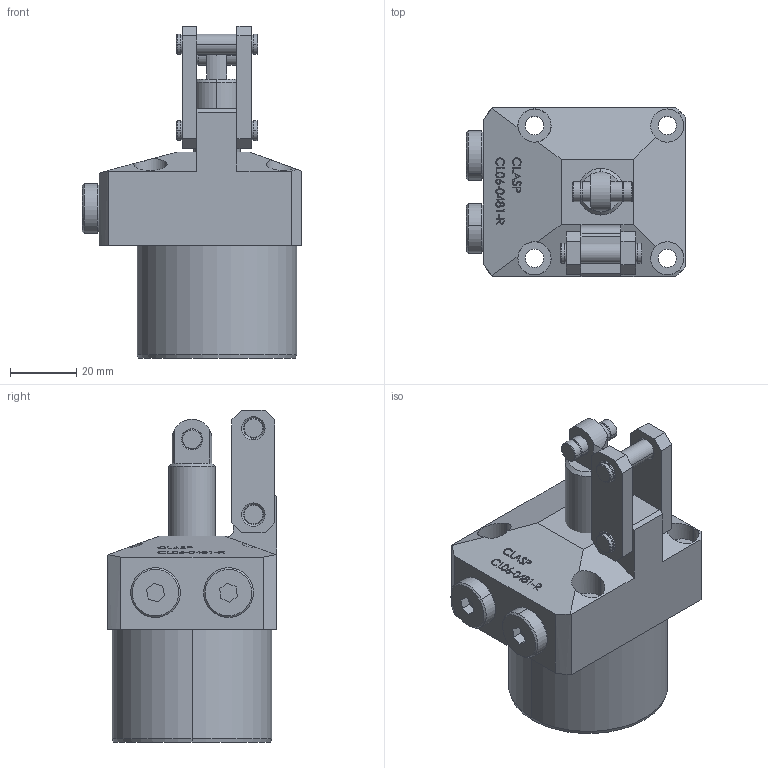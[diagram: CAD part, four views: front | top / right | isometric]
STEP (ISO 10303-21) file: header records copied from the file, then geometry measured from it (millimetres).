
FILE_DESCRIPTION (( 'STEP AP203' ), '1' );
FILE_NAME ('CLO6-0481cr.STEP', '2022-07-05T17:24:14', ( '' ), ( '' ), 'SwSTEP 2.0', 'SolidWorks 2017', '' );
FILE_SCHEMA (( 'CONFIG_CONTROL_DESIGN' ));
Length unit declared in the file: millimetre
Products named in the file (7): CLO6-0481 Part3 cr; CLO6-0481 Part2 cr; CLO6-0481 Part5 cr; CLO6-0481 Part6 cr; CLO6-0481 Part7 cr; CLO6-0481cr; CLO6-0481 Part1 cr
Assembly tree (9 placements, depth 2):
  CLO6-0481cr
    CLO6-0481 Part1 cr
    CLO6-0481 Part3 cr
    CLO6-0481 Part2 cr  x2
    CLO6-0481 Part5 cr  x2
    CLO6-0481 Part6 cr  x2
    CLO6-0481 Part7 cr
Bounding box: 66 x 51 x 100 mm (x, y, z)
Volume: 148289.3 mm3; surface area: 29104.8 mm2
Topology: 9 solids, 9 shells, 416 faces, 1005 edges, 650 vertices
Faces by surface type: plane 193, bspline 88, cylinder 87, cone 48
Entity records: 16536 total; most frequent: CARTESIAN_POINT 7736, ORIENTED_EDGE 1758, DIRECTION 1403, EDGE_CURVE 879, VERTEX_POINT 574, LINE 521, VECTOR 521, AXIS2_PLACEMENT_3D 441
